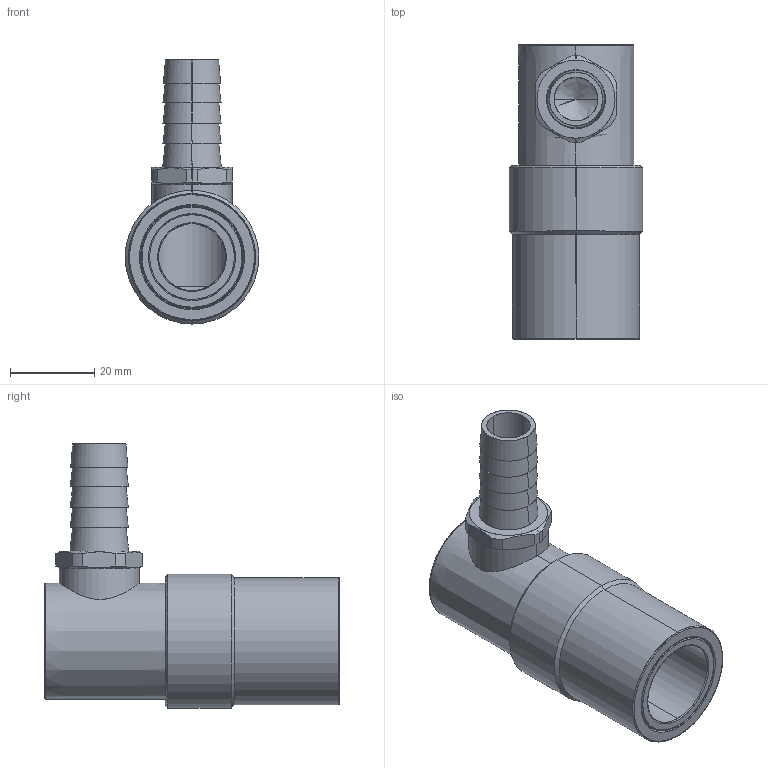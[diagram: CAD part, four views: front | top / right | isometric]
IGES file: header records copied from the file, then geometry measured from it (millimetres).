
Start section: SolidWorks IGES file using analytic representation for surfaces
Global section: file name: C:\Users\365admin\AppData\Local\Temp\InFlowConvert3DWorking\SC514-L.igs; native system: SolidWorks 2019; preprocessor: SolidWorks 2019; author: 365admin; date: 220203.011039; units: inch
Bounding box: 31.72 x 69.85 x 62.6 mm (x, y, z)
Surface area: 23126.4 mm2 (no closed solid volume)
Topology: 0 solids, 0 shells, 103 faces, 1743 edges, 1741 vertices
Faces by surface type: revolution 62, bspline 41
